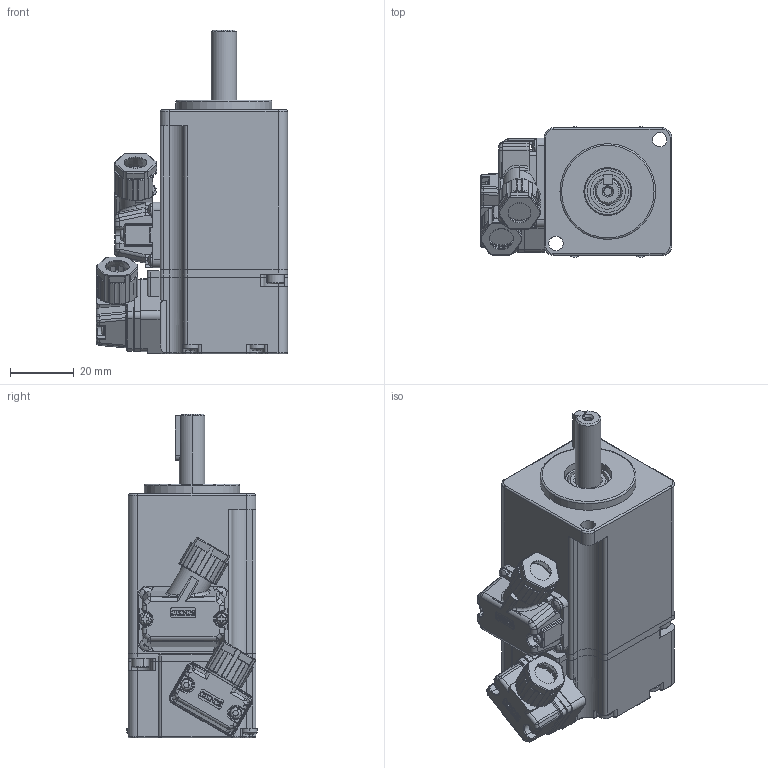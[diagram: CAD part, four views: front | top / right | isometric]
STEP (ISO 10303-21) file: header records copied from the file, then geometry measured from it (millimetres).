
FILE_DESCRIPTION (( 'STEP AP203' ), '1' );
FILE_NAME ('WB40ST-M00330总装-插拔式-2024(新联款插拔).STEP', '2024-11-08T09:17:33', ( 'lvbing' ), ( 'WG' ), 'SwSTEP 2.0', 'SolidWorks 2018', '' );
FILE_SCHEMA (( 'CONFIG_CONTROL_DESIGN' ));
Length unit declared in the file: millimetre
Products named in the file (2): WB40ST-M00330总装-插拔式-2024(新联款插拔)
Bounding box: 59.95 x 40.94 x 101.5 mm (x, y, z)
Surface area: 22885.7 mm2 (no closed solid volume)
Topology: 0 solids, 25 shells, 1162 faces, 4066 edges, 2797 vertices
Faces by surface type: cylinder 429, plane 420, torus 141, bspline 123, sphere 36, cone 13
Entity records: 48114 total; most frequent: CARTESIAN_POINT 15215, ORIENTED_EDGE 6646, DIRECTION 6367, EDGE_CURVE 4062, VERTEX_POINT 2797, AXIS2_PLACEMENT_3D 2289, VECTOR 1789, LINE 1789
